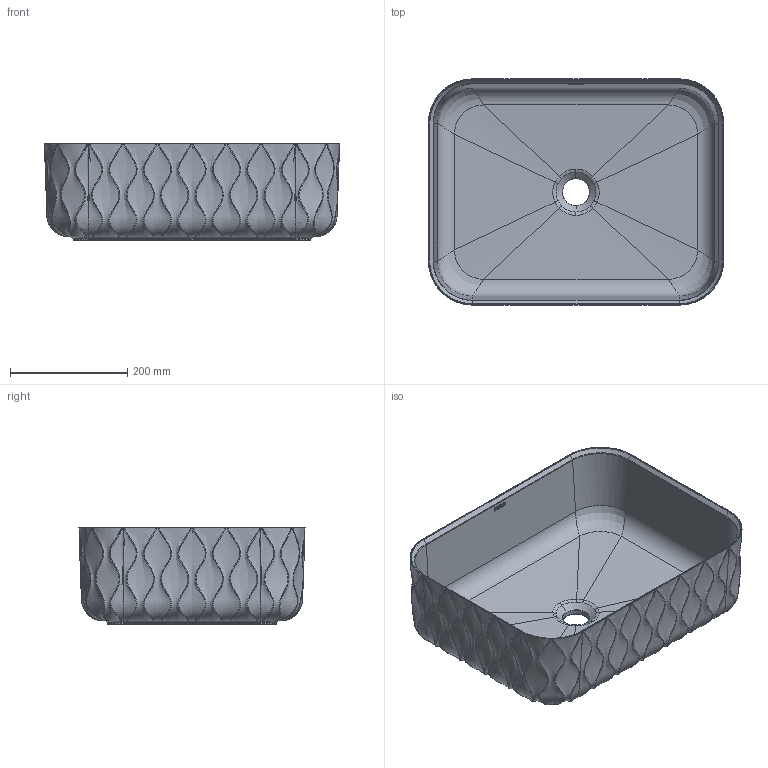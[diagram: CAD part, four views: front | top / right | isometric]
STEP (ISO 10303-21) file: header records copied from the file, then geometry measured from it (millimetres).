
FILE_DESCRIPTION(/* description */ (''),/* implementation_level */ '2;1');
FILE_NAME(/* name */ '4169_S~1',/* time_stamp */ '2023-11-13T11:03:04+01:00',/* author */ (''),/* organization */ (''),/* preprocessor_version */ 'ST-DEVELOPER v16.5',/* originating_system */ '',/* authorisation */ '');
FILE_SCHEMA (('CONFIG_CONTROL_DESIGN'));
Length unit declared in the file: millimetre
Products named in the file (1): Document
Bounding box: 502.45 x 384.96 x 165 mm (x, y, z)
Volume: 4257646.6 mm3; surface area: 803643 mm2
Topology: 7 solids, 7 shells, 337 faces, 819 edges, 458 vertices
Faces by surface type: bspline 236, plane 72, cylinder 29
Full cylindrical faces by diameter (mm): 46 x1
Entity records: 211142 total; most frequent: CARTESIAN_POINT 206123, ORIENTED_EDGE 1566, EDGE_CURVE 783, B_SPLINE_CURVE_WITH_KNOTS 599, VERTEX_POINT 458, EDGE_LOOP 343, ADVANCED_FACE 337, FACE_OUTER_BOUND 337
